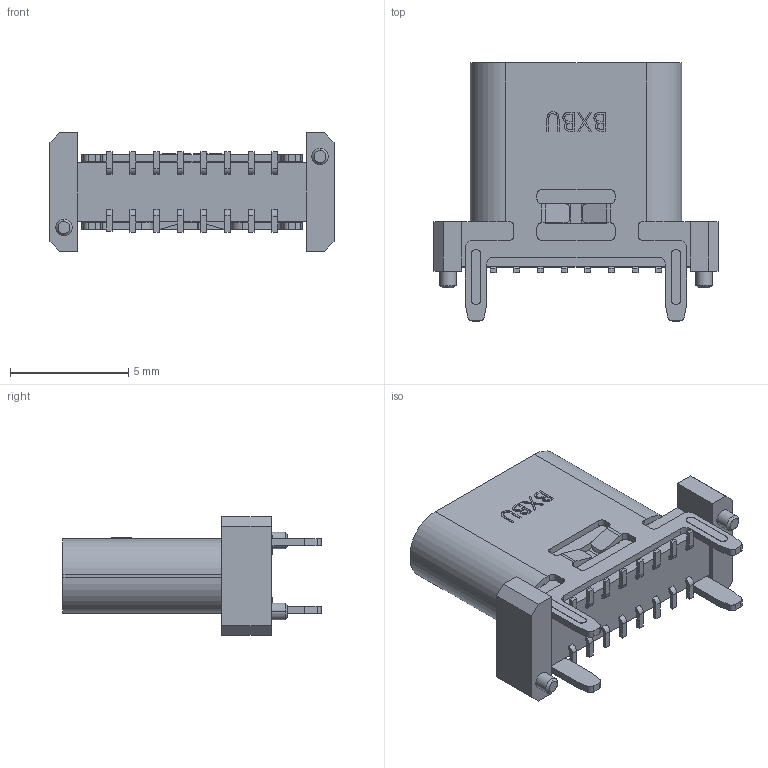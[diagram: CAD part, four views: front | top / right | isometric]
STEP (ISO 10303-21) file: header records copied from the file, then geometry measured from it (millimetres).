
FILE_DESCRIPTION (( 'STEP AP203' ), '1' );
FILE_NAME ('U5106-16PN8.8L.STEP', '2026-09-21T02:57:58', ( '' ), ( '' ), 'SwSTEP 2.0', 'SolidWorks 2024', '' );
FILE_SCHEMA (( 'CONFIG_CONTROL_DESIGN' ));
Length unit declared in the file: millimetre
Products named in the file (1): U5106-16PN8.8L
Bounding box: 12 x 10.9 x 5 mm (x, y, z)
Volume: 183.4 mm3; surface area: 619.3 mm2
Topology: 2 solids, 2 shells, 553 faces, 1532 edges, 1016 vertices
Faces by surface type: plane 366, cylinder 150, bspline 25, cone 12
Entity records: 19015 total; most frequent: CARTESIAN_POINT 4675, ORIENTED_EDGE 3064, DIRECTION 2840, EDGE_CURVE 1532, VECTOR 1158, LINE 1158, VERTEX_POINT 1016, AXIS2_PLACEMENT_3D 841
